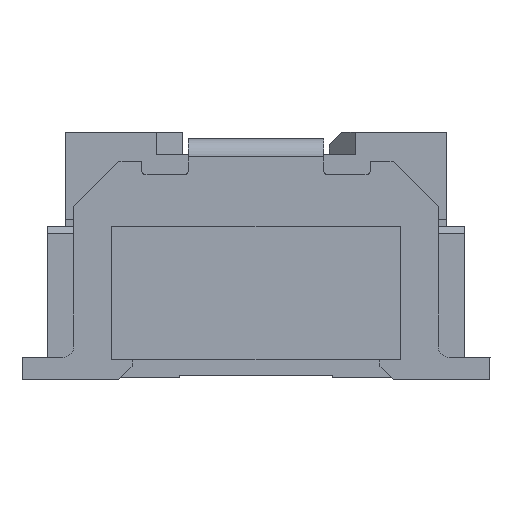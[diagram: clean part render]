
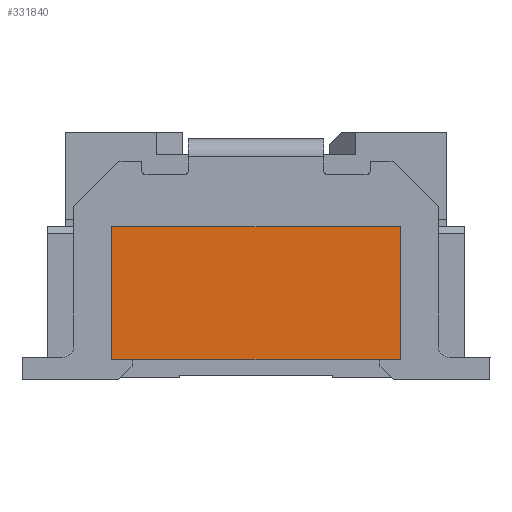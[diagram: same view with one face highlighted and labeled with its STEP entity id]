
A CAD part, left-side view. The second image highlights one B-rep face of the part: STEP entity #331840.
In plain terms, the highlighted planar face has unit normal (-1, 0, 0).
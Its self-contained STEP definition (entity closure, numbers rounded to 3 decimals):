
#316030=CARTESIAN_POINT('',(-1.893,-0.02,
-3.22));
#316040=VERTEX_POINT('',#316030);
#316070=CARTESIAN_POINT('',(-1.893,-0.02,
-5.031));
#316080=DIRECTION('',(0.,0.,-1.));
#316090=VECTOR('',#316080,1.);
#316100=LINE('',#316070,#316090);
#316110=CARTESIAN_POINT('',(-1.893,-0.02,
3.18));
#316120=VERTEX_POINT('',#316110);
#316130=EDGE_CURVE('',#316120,#316040,#316100,.T.);
#331020=CARTESIAN_POINT('',(-1.893,2.93,
-3.22));
#331030=VERTEX_POINT('',#331020);
#331060=CARTESIAN_POINT('',(-1.893,-0.507,
-3.22));
#331070=DIRECTION('',(0.,-1.,0.));
#331080=VECTOR('',#331070,1.);
#331090=LINE('',#331060,#331080);
#331100=EDGE_CURVE('',#331030,#316040,#331090,.T.);
#331340=CARTESIAN_POINT('',(-1.893,-0.507,
3.18));
#331350=DIRECTION('',(0.,1.,0.));
#331360=VECTOR('',#331350,1.);
#331370=LINE('',#331340,#331360);
#331380=CARTESIAN_POINT('',(-1.893,2.93,
3.18));
#331390=VERTEX_POINT('',#331380);
#331400=EDGE_CURVE('',#316120,#331390,#331370,.T.);
#331680=CARTESIAN_POINT('',(-1.893,2.93,
4.88));
#331690=DIRECTION('',(-1.,0.,0.));
#331700=DIRECTION('',(0.,1.,0.));
#331710=AXIS2_PLACEMENT_3D('',#331680,#331690,#331700);
#331720=PLANE('',#331710);
#331730=ORIENTED_EDGE('',*,*,#316130,.F.);
#331740=ORIENTED_EDGE('',*,*,#331100,.T.);
#331750=CARTESIAN_POINT('',(-1.893,2.93,
-5.031));
#331760=DIRECTION('',(0.,0.,-1.));
#331770=VECTOR('',#331760,1.);
#331780=LINE('',#331750,#331770);
#331790=EDGE_CURVE('',#331390,#331030,#331780,.T.);
#331800=ORIENTED_EDGE('',*,*,#331790,.T.);
#331810=ORIENTED_EDGE('',*,*,#331400,.T.);
#331820=EDGE_LOOP('',(#331810,#331800,#331740,#331730));
#331830=FACE_OUTER_BOUND('',#331820,.T.);
#331840=ADVANCED_FACE('',(#331830),#331720,.T.);
